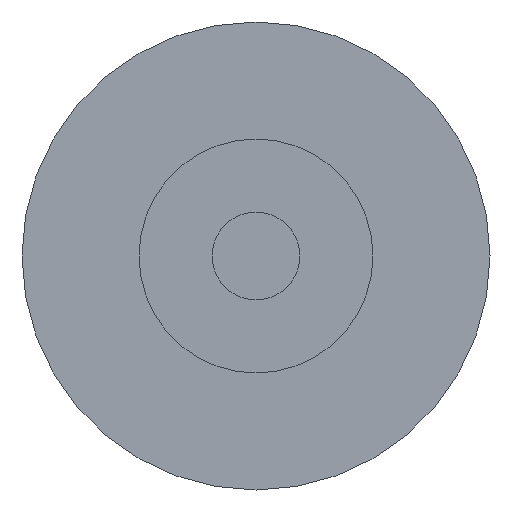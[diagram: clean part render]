
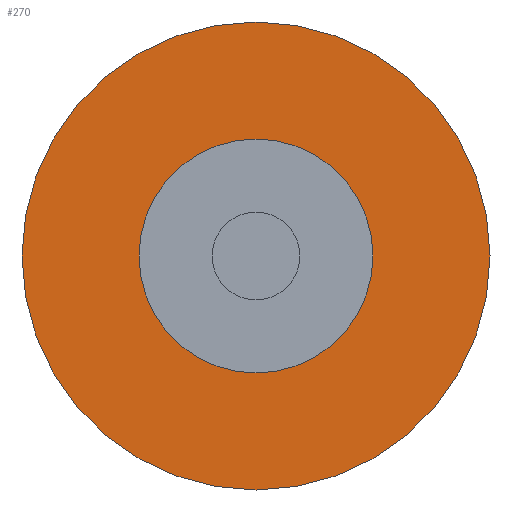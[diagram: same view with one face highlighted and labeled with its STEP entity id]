
A CAD part, front view. The second image highlights one B-rep face of the part: STEP entity #270.
In plain terms, the highlighted planar face has unit normal (0, -1, 0).
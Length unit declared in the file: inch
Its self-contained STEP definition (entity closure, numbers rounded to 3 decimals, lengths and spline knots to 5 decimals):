
#4 = VERTEX_POINT ( 'NONE', #8 ) ;
#8 = CARTESIAN_POINT ( 'NONE',  ( 0., -0.44, 0.25 ) ) ;
#11 = VERTEX_POINT ( 'NONE', #42 ) ;
#12 = VERTEX_POINT ( 'NONE', #25 ) ;
#25 = CARTESIAN_POINT ( 'NONE',  ( 0., -0.44, -0.5 ) ) ;
#32 = CARTESIAN_POINT ( 'NONE',  ( 0., -0.44, 0.5 ) ) ;
#35 = CARTESIAN_POINT ( 'NONE',  ( 0., -0.44, 0. ) ) ;
#37 = DIRECTION ( 'NONE',  ( 0., 1., 0. ) ) ;
#38 = DIRECTION ( 'NONE',  ( 0., 0., 1. ) ) ;
#42 = CARTESIAN_POINT ( 'NONE',  ( 0., -0.44, -0.25 ) ) ;
#44 = VERTEX_POINT ( 'NONE', #32 ) ;
#66 = CARTESIAN_POINT ( 'NONE',  ( 0., -0.44, 0. ) ) ;
#70 = DIRECTION ( 'NONE',  ( 0., 1., 0. ) ) ;
#71 = DIRECTION ( 'NONE',  ( 0., 0., 1. ) ) ;
#75 = CARTESIAN_POINT ( 'NONE',  ( 0., -0.44, 0. ) ) ;
#79 = DIRECTION ( 'NONE',  ( 0., 1., 0. ) ) ;
#86 = DIRECTION ( 'NONE',  ( 0., 0., 1. ) ) ;
#100 = DIRECTION ( 'NONE',  ( 0., 1., 0. ) ) ;
#107 = CARTESIAN_POINT ( 'NONE',  ( 0., -0.44, 0. ) ) ;
#111 = DIRECTION ( 'NONE',  ( 0., 0., 1. ) ) ;
#144 = EDGE_CURVE ( 'NONE', #44, #12, #379, .T. ) ;
#147 = EDGE_CURVE ( 'NONE', #11, #4, #390, .T. ) ;
#159 = EDGE_CURVE ( 'NONE', #12, #44, #368, .T. ) ;
#163 = EDGE_CURVE ( 'NONE', #4, #11, #381, .T. ) ;
#165 = AXIS2_PLACEMENT_3D ( 'NONE', #35, #37, #38 ) ;
#185 = PLANE ( 'NONE',  #487 ) ;
#186 = CARTESIAN_POINT ( 'NONE',  ( -1.10557, -0.44, 0. ) ) ;
#187 = DIRECTION ( 'NONE',  ( 0., 1., 0. ) ) ;
#202 = DIRECTION ( 'NONE',  ( 0., 0., 1. ) ) ;
#270 = ADVANCED_FACE ( 'NONE', ( #430, #413 ), #185, .F. ) ;
#281 = EDGE_LOOP ( 'NONE', ( #328, #340 ) ) ;
#283 = EDGE_LOOP ( 'NONE', ( #343, #341 ) ) ;
#328 = ORIENTED_EDGE ( 'NONE', *, *, #163, .T. ) ;
#340 = ORIENTED_EDGE ( 'NONE', *, *, #147, .T. ) ;
#341 = ORIENTED_EDGE ( 'NONE', *, *, #159, .F. ) ;
#343 = ORIENTED_EDGE ( 'NONE', *, *, #144, .F. ) ;
#368 = CIRCLE ( 'NONE', #501, 0.5 ) ;
#379 = CIRCLE ( 'NONE', #165, 0.5 ) ;
#381 = CIRCLE ( 'NONE', #491, 0.25 ) ;
#390 = CIRCLE ( 'NONE', #469, 0.25 ) ;
#413 = FACE_OUTER_BOUND ( 'NONE', #283, .T. ) ;
#430 = FACE_BOUND ( 'NONE', #281, .T. ) ;
#469 = AXIS2_PLACEMENT_3D ( 'NONE', #75, #70, #71 ) ;
#487 = AXIS2_PLACEMENT_3D ( 'NONE', #186, #187, #202 ) ;
#491 = AXIS2_PLACEMENT_3D ( 'NONE', #107, #100, #111 ) ;
#501 = AXIS2_PLACEMENT_3D ( 'NONE', #66, #79, #86 ) ;
